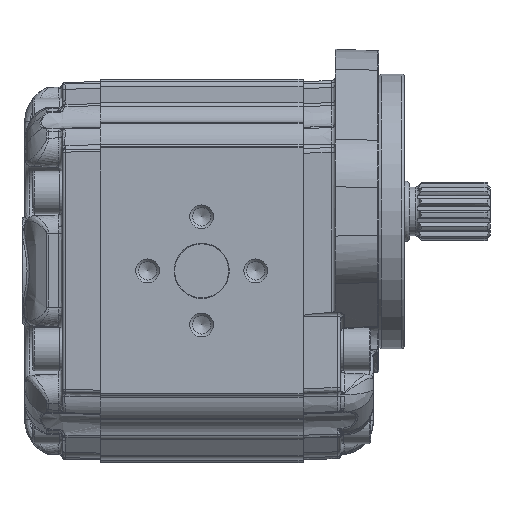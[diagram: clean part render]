
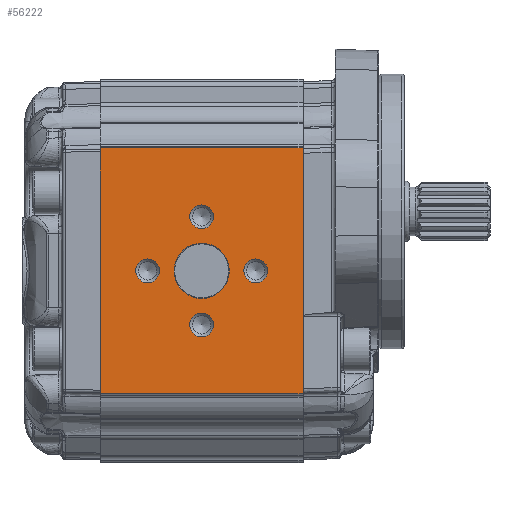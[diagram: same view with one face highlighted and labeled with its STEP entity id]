
A CAD part, left-side view. The second image highlights one B-rep face of the part: STEP entity #56222.
In plain terms, the highlighted planar face has unit normal (-1, 0, 0).
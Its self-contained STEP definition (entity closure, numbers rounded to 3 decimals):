
#6461=LINE('',#106767,#8095);
#6472=LINE('',#106852,#8106);
#6510=LINE('',#106960,#8144);
#6511=LINE('',#106961,#8145);
#8095=VECTOR('',#62851,1000.);
#8106=VECTOR('',#62926,1000.);
#8144=VECTOR('',#63052,1000.);
#8145=VECTOR('',#63053,1000.);
#14087=ORIENTED_EDGE('',*,*,#23698,.T.);
#14088=ORIENTED_EDGE('',*,*,#23699,.T.);
#14089=ORIENTED_EDGE('',*,*,#23700,.T.);
#14090=ORIENTED_EDGE('',*,*,#23701,.T.);
#14091=ORIENTED_EDGE('',*,*,#23702,.T.);
#14092=ORIENTED_EDGE('',*,*,#23602,.F.);
#14093=ORIENTED_EDGE('',*,*,#23703,.T.);
#14094=ORIENTED_EDGE('',*,*,#23644,.F.);
#14095=ORIENTED_EDGE('',*,*,#23704,.T.);
#23602=EDGE_CURVE('',#28736,#28737,#6461,.T.);
#23644=EDGE_CURVE('',#28778,#28779,#6472,.T.);
#23698=EDGE_CURVE('',#28800,#28800,#31581,.F.);
#23699=EDGE_CURVE('',#28801,#28801,#31582,.F.);
#23700=EDGE_CURVE('',#28802,#28802,#31583,.F.);
#23701=EDGE_CURVE('',#28803,#28803,#31584,.F.);
#23702=EDGE_CURVE('',#28804,#28804,#31585,.F.);
#23703=EDGE_CURVE('',#28736,#28779,#6510,.F.);
#23704=EDGE_CURVE('',#28778,#28737,#6511,.F.);
#28736=VERTEX_POINT('',#106766);
#28737=VERTEX_POINT('',#106768);
#28778=VERTEX_POINT('',#106851);
#28779=VERTEX_POINT('',#106853);
#28800=VERTEX_POINT('',#106951);
#28801=VERTEX_POINT('',#106953);
#28802=VERTEX_POINT('',#106955);
#28803=VERTEX_POINT('',#106957);
#28804=VERTEX_POINT('',#106959);
#31581=CIRCLE('',#58884,4.4);
#31582=CIRCLE('',#58885,4.4);
#31583=CIRCLE('',#58886,4.4);
#31584=CIRCLE('',#58887,4.4);
#31585=CIRCLE('',#58888,10.2);
#32924=EDGE_LOOP('',(#14087));
#32925=EDGE_LOOP('',(#14088));
#32926=EDGE_LOOP('',(#14089));
#32927=EDGE_LOOP('',(#14090));
#32928=EDGE_LOOP('',(#14091));
#32929=EDGE_LOOP('',(#14092,#14093,#14094,#14095));
#35657=FACE_BOUND('',#32924,.T.);
#35658=FACE_BOUND('',#32925,.T.);
#35659=FACE_BOUND('',#32926,.T.);
#35660=FACE_BOUND('',#32927,.T.);
#35661=FACE_BOUND('',#32928,.T.);
#35662=FACE_BOUND('',#32929,.T.);
#37473=PLANE('',#58883);
#56222=ADVANCED_FACE('',(#35657,#35658,#35659,#35660,#35661,#35662),#37473,
 .T.);
#58883=AXIS2_PLACEMENT_3D('',#106949,#63040,#63041);
#58884=AXIS2_PLACEMENT_3D('',#106950,#63042,#63043);
#58885=AXIS2_PLACEMENT_3D('',#106952,#63044,#63045);
#58886=AXIS2_PLACEMENT_3D('',#106954,#63046,#63047);
#58887=AXIS2_PLACEMENT_3D('',#106956,#63048,#63049);
#58888=AXIS2_PLACEMENT_3D('',#106958,#63050,#63051);
#62851=DIRECTION('',(0.,0.,1.));
#62926=DIRECTION('',(0.,0.,-1.));
#63040=DIRECTION('',(-1.,0.,0.));
#63041=DIRECTION('',(0.,0.,-1.));
#63042=DIRECTION('',(-1.,0.,0.));
#63043=DIRECTION('',(0.,0.,-1.));
#63044=DIRECTION('',(-1.,0.,0.));
#63045=DIRECTION('',(0.,0.,-1.));
#63046=DIRECTION('',(-1.,0.,0.));
#63047=DIRECTION('',(0.,0.,-1.));
#63048=DIRECTION('',(-1.,0.,0.));
#63049=DIRECTION('',(0.,0.,-1.));
#63050=DIRECTION('',(-1.,0.,0.));
#63051=DIRECTION('',(0.,0.,-1.));
#63052=DIRECTION('',(0.,1.,0.));
#63053=DIRECTION('',(0.,-1.,0.));
#106766=CARTESIAN_POINT('',(-57.5,75.,-45.5));
#106767=CARTESIAN_POINT('',(-57.5,75.,-84.819));
#106768=CARTESIAN_POINT('',(-57.5,75.,45.5));
#106851=CARTESIAN_POINT('',(-57.5,0.,45.5));
#106852=CARTESIAN_POINT('',(-57.5,0.,-44.978));
#106853=CARTESIAN_POINT('',(-57.5,0.,-45.5));
#106949=CARTESIAN_POINT('',(-57.5,-149.417,-84.819));
#106950=CARTESIAN_POINT('',(-57.5,37.5,20.));
#106951=CARTESIAN_POINT('',(-57.5,37.5,15.6));
#106952=CARTESIAN_POINT('',(-57.5,57.5,0.));
#106953=CARTESIAN_POINT('',(-57.5,57.5,-4.4));
#106954=CARTESIAN_POINT('',(-57.5,37.5,-20.));
#106955=CARTESIAN_POINT('',(-57.5,37.5,-24.4));
#106956=CARTESIAN_POINT('',(-57.5,17.5,0.));
#106957=CARTESIAN_POINT('',(-57.5,17.5,-4.4));
#106958=CARTESIAN_POINT('',(-57.5,37.5,0.));
#106959=CARTESIAN_POINT('',(-57.5,37.5,-10.2));
#106960=CARTESIAN_POINT('',(-57.5,-149.417,-45.5));
#106961=CARTESIAN_POINT('',(-57.5,-149.417,45.5));
